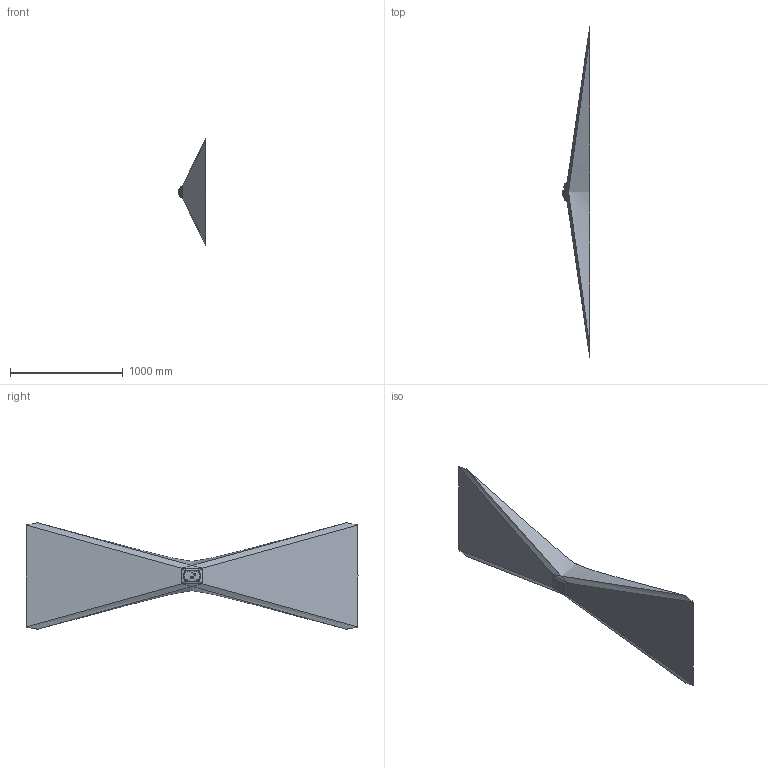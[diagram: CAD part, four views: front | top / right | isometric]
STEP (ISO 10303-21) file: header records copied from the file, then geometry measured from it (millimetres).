
FILE_DESCRIPTION(('CATIA V5 STEP Exchange','CAx-IF Rec.Pracs.--- Model Styling and Organization---1.5--- 2016-08-15','CAx-IF Rec.Pracs.---Supplemental Geometry---1.0---2011-11-01','CAx-IF Rec.Pracs.--- Composite Materials ---1.1---2010-07-15'),'2;1');
FILE_NAME('E:\tmp\ddx\2011206\HELLA_3D_data_tail-stop_light_SHAPELINE_tech_013-341.stp','2022-01-18T07:40:42+00:00',('none'),('none'),'CATIA Version 5-6 Release 2020 SP3 HF9','CATIA V5 STEP AP214 Edition 3 v2','none');
FILE_SCHEMA(('AUTOMOTIVE_DESIGN { 1 0 10303 214 3 1 1 1 }'));
Products named in the file (1): 10002753471_D10_001
Bounding box: 243.1 x 2938.44 x 948.93 mm (x, y, z)
Volume: 316927.5 mm3; surface area: 2652667.4 mm2
Topology: 1 solids, 5 shells, 1273 faces, 2980 edges, 1718 vertices
Faces by surface type: bspline 504, cylinder 346, plane 187, torus 152, cone 64, sphere 14, extrusion 6
Entity records: 59821 total; most frequent: CARTESIAN_POINT 35976, ORIENTED_EDGE 5896, EDGE_CURVE 2966, DIRECTION 2927, VERTEX_POINT 1718, AXIS2_PLACEMENT_3D 1527, B_SPLINE_CURVE_WITH_KNOTS 1427, EDGE_LOOP 1304
